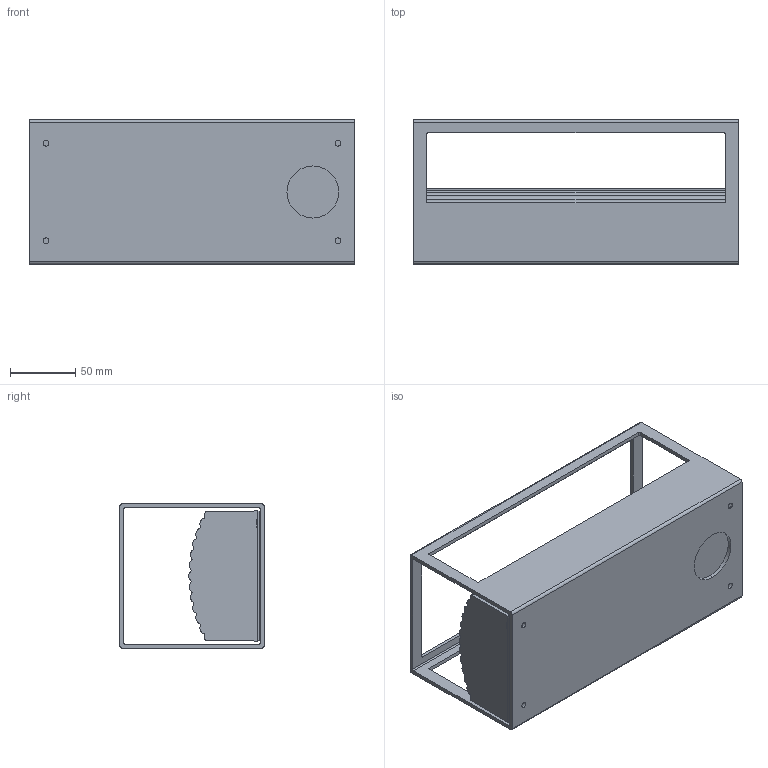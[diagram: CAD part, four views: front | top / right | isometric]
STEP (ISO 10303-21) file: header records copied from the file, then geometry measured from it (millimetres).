
FILE_DESCRIPTION((''),'2;1');
FILE_NAME('ASM0005_ASM','2026-06-03T12:02:14',('Manenti'),(''),'CREO PARAMETRIC BY PTC INC, 2025010','CREO PARAMETRIC BY PTC INC, 2025010','');
FILE_SCHEMA(('CONFIG_CONTROL_DESIGN'));
Length unit declared in the file: millimetre
Products named in the file (2): CMEG902G; ASM0005_ASM
Assembly tree (1 placements, depth 2):
  ASM0005_ASM
    CMEG902G
Bounding box: 250 x 111 x 111 mm (x, y, z)
Volume: 182093.2 mm3; surface area: 214283.7 mm2
Topology: 1 solids, 24 shells, 291 faces, 845 edges, 574 vertices
Faces by surface type: cylinder 93, bspline 66, plane 64, sphere 36, torus 16, cone 16
Entity records: 13687 total; most frequent: CARTESIAN_POINT 6678, ORIENTED_EDGE 1374, DIRECTION 1365, EDGE_CURVE 822, VERTEX_POINT 552, AXIS2_PLACEMENT_3D 544, CIRCLE 312, EDGE_LOOP 309
